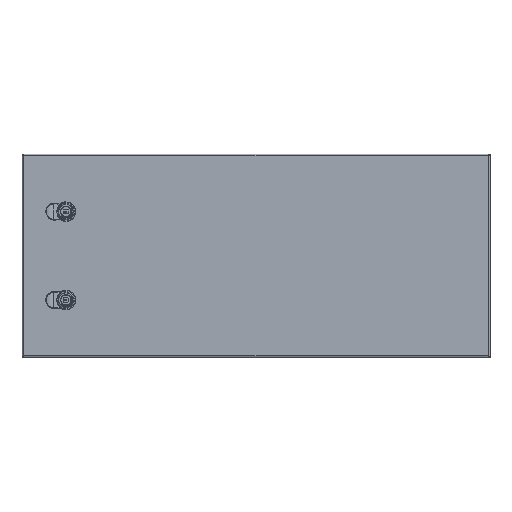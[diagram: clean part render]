
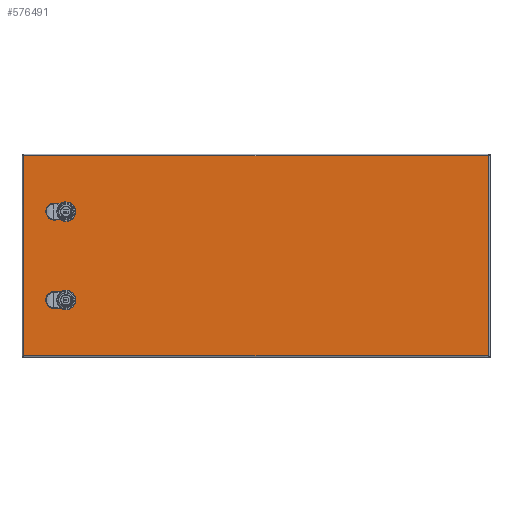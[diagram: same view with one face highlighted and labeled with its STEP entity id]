
A CAD part, top view. The second image highlights one B-rep face of the part: STEP entity #576491.
In plain terms, the highlighted planar face has unit normal (0, 0, 1).
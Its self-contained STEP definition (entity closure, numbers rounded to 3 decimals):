
#570621=CARTESIAN_POINT(' ',(389.389,172.733,269.003));
#570622=VERTEX_POINT(' ',#570621);
#571286=CARTESIAN_POINT(' ',(389.389,-166.667,269.003));
#571287=VERTEX_POINT(' ',#571286);
#572131=CARTESIAN_POINT(' ',(389.389,172.733,269.003));
#572136=DIRECTION(' ',(0.,-1.,0.));
#572141=VECTOR(' ',#572136,1.);
#572146=LINE('',#572131,#572141);
#572151=EDGE_CURVE(' ',#570622,#571287,#572146,.T.);
#574136=CARTESIAN_POINT(' ',(-399.011,-166.667,269.003));
#574137=VERTEX_POINT(' ',#574136);
#574676=CARTESIAN_POINT(' ',(-399.011,172.733,269.003));
#574677=VERTEX_POINT(' ',#574676);
#576361=DIRECTION(' ',(-0.,-0.,1.));
#576366=CARTESIAN_POINT(' ',(389.389,-166.667,269.003));
#576371=DIRECTION(' ',(0.,1.,0.));
#576376=AXIS2_PLACEMENT_3D(' ',#576366,#576361,#576371);
#576381=PLANE('NONE',#576376);
#576386=CARTESIAN_POINT(' ',(-399.011,-166.667,269.003));
#576391=DIRECTION(' ',(1.,0.,0.));
#576396=VECTOR(' ',#576391,1.);
#576401=LINE('',#576386,#576396);
#576406=EDGE_CURVE(' ',#574137,#571287,#576401,.T.);
#576411=ORIENTED_EDGE(' ',*,*,#576406,.T.);
#576416=ORIENTED_EDGE(' ',*,*,#572151,.F.);
#576421=CARTESIAN_POINT(' ',(389.389,172.733,269.003));
#576426=DIRECTION(' ',(-1.,0.,0.));
#576431=VECTOR(' ',#576426,1.);
#576436=LINE('',#576421,#576431);
#576441=EDGE_CURVE(' ',#570622,#574677,#576436,.T.);
#576446=ORIENTED_EDGE(' ',*,*,#576441,.T.);
#576451=CARTESIAN_POINT(' ',(-399.011,172.733,269.003));
#576456=DIRECTION(' ',(0.,-1.,0.));
#576461=VECTOR(' ',#576456,1.);
#576466=LINE('',#576451,#576461);
#576471=EDGE_CURVE(' ',#574677,#574137,#576466,.T.);
#576476=ORIENTED_EDGE(' ',*,*,#576471,.T.);
#576481=EDGE_LOOP(' ',(#576411,#576416,#576446,#576476));
#576486=FACE_OUTER_BOUND(' ',#576481,.T.);
#576491=ADVANCED_FACE('NONE',(#576486),#576381,.T.);
